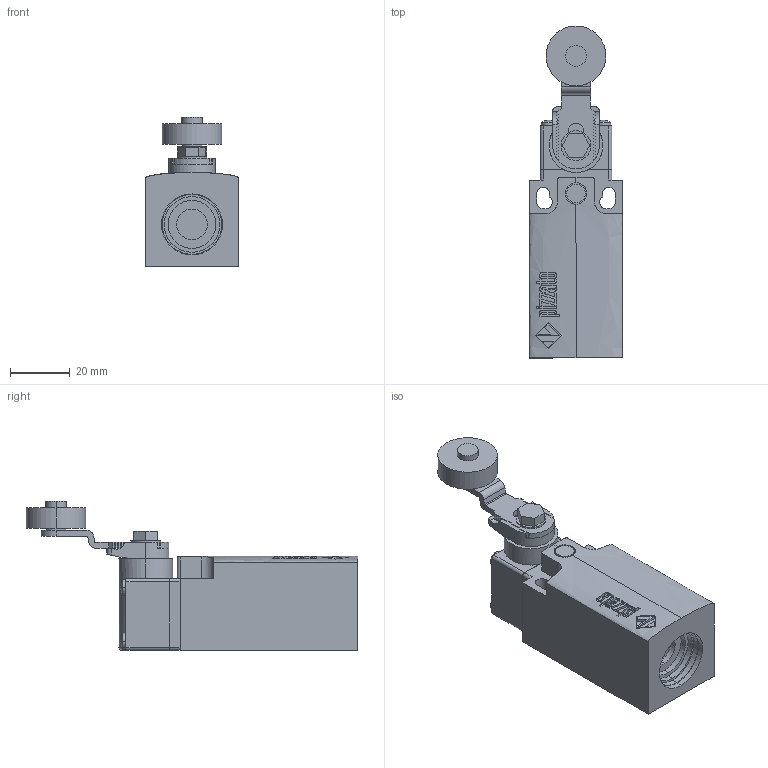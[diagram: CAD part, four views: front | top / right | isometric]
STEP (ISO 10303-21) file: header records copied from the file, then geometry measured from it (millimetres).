
FILE_DESCRIPTION (( 'STEP AP203' ), '1' );
FILE_NAME ('ZF_STEP_FR_x54.STEP', '2024-02-26T08:58:43', ( '' ), ( '' ), 'SwSTEP 2.0', 'SolidWorks 2023', '' );
FILE_SCHEMA (( 'CONFIG_CONTROL_DESIGN' ));
Length unit declared in the file: millimetre
Products named in the file (10): Pizzato_rosetta_6606_Schiacciata; Pizzato_vite; ZF_STEP_VN_A00KG; ZF_STEP_VF_TE38; Pizzato_Supporto_leve_6325; Pizzato_Custodia_FR_3dweb; Pizzato_Supporto_TE38; Pizzato_VN_A00KG; ZF_STEP_FR_x54
Assembly tree (9 placements, depth 3):
  ZF_STEP_FR_x54
    Pizzato_Custodia_FR_3dweb
      Pizzato_Custodia_FR_3dweb
    ZF_STEP_VF_TE38
      Pizzato_Supporto_TE38
    ZF_STEP_VN_A00KG
      Pizzato_Supporto_leve_6325
      Pizzato_rosetta_6606_Schiacciata
      Pizzato_vite
      Pizzato_VN_A00KG
Bounding box: 31.2 x 111 x 50.1 mm (x, y, z)
Volume: 69844.9 mm3; surface area: 19176.9 mm2
Topology: 6 solids, 6 shells, 885 faces, 2469 edges, 1644 vertices
Faces by surface type: plane 521, cylinder 241, bspline 114, sphere 8, torus 1
Entity records: 33614 total; most frequent: CARTESIAN_POINT 10413, ORIENTED_EDGE 4938, DIRECTION 4152, EDGE_CURVE 2469, LINE 1650, VECTOR 1650, VERTEX_POINT 1644, AXIS2_PLACEMENT_3D 1251
